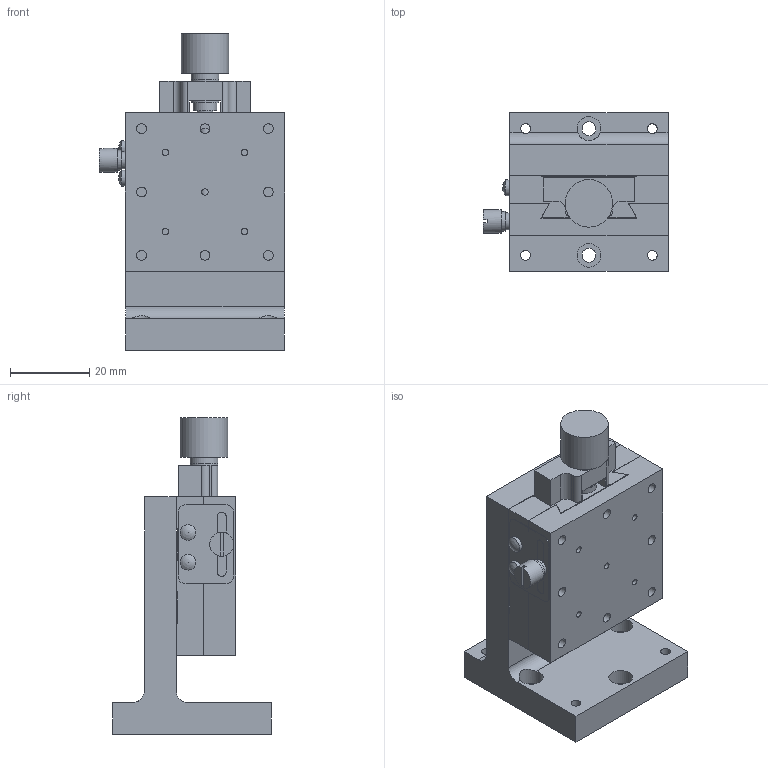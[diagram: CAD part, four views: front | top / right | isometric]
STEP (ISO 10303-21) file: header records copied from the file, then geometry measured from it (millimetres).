
FILE_DESCRIPTION( ( 'STEP AP203' ), '1' );
FILE_NAME( 'C:/3D-Trans/3D_B08-13+090717.step', '2009-07-17T06:17:21', ( ' ' ), ( ' ' ), 'XStep 1.0', ' ', ' ' );
FILE_SCHEMA( ( 'CONFIG_CONTROL_DESIGN' ) );
Length unit declared in the file: millimetre
Products named in the file (3): 1; 2; 3
Bounding box: 46.85 x 40 x 80 mm (x, y, z)
Volume: 52702.9 mm3; surface area: 23390.7 mm2
Topology: 3 solids, 5 shells, 195 faces, 545 edges, 368 vertices
Faces by surface type: plane 113, cylinder 79, sphere 2, cone 1
Full cylindrical faces by diameter (mm): 1.6 x5, 2 x1, 2.2 x1, 2.5 x22, 3 x4, 3.2 x2, 3.5 x8, 4 x3, 4.3 x1, 4.5 x2, 5 x1, 6 x6, 6.5 x4, 7 x4, 12 x1
Entity records: 6115 total; most frequent: CARTESIAN_POINT 1261, DIRECTION 969, ORIENTED_EDGE 862, EDGE_CURVE 431, AXIS2_PLACEMENT_3D 349, EDGE_LOOP 343, VERTEX_POINT 323, LINE 271
